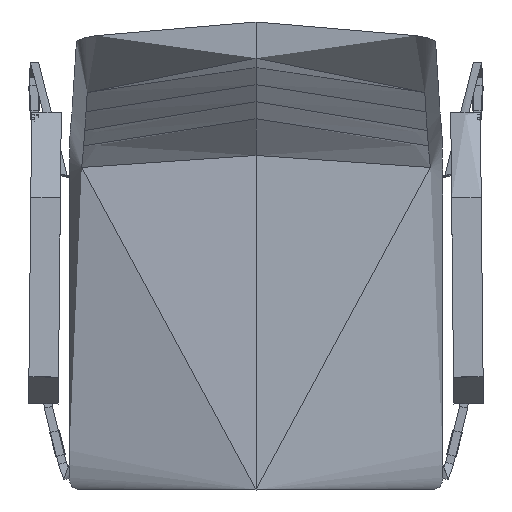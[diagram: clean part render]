
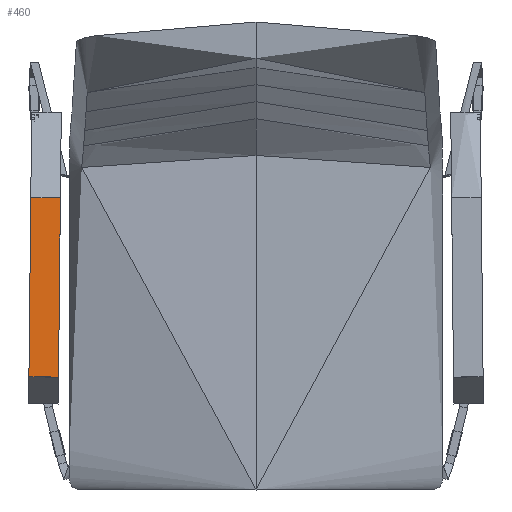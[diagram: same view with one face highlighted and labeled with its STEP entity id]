
A CAD part, top view. The second image highlights one B-rep face of the part: STEP entity #460.
In plain terms, the highlighted free-form (B-spline) face has degree [3, 3] with [5, 4] control points.
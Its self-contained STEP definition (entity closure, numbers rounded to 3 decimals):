
#38=(
BOUNDED_CURVE()
B_SPLINE_CURVE(3,(#8143,#8144,#8145,#8146),.UNSPECIFIED.,.F.,.F.)
B_SPLINE_CURVE_WITH_KNOTS((4,4),(0.,217.847),.UNSPECIFIED.)
CURVE()
GEOMETRIC_REPRESENTATION_ITEM()
RATIONAL_B_SPLINE_CURVE((1.,1.,1.,1.))
REPRESENTATION_ITEM('')
);
#39=(
BOUNDED_CURVE()
B_SPLINE_CURVE(3,(#8147,#8148,#8149,#8150,#8151),.UNSPECIFIED.,.F.,.F.)
B_SPLINE_CURVE_WITH_KNOTS((4,1,4),(-36.993,-18.496,
0.),.UNSPECIFIED.)
CURVE()
GEOMETRIC_REPRESENTATION_ITEM()
RATIONAL_B_SPLINE_CURVE((1.,1.,1.,1.,1.))
REPRESENTATION_ITEM('')
);
#40=(
BOUNDED_CURVE()
B_SPLINE_CURVE(3,(#8152,#8153,#8154,#8155),.UNSPECIFIED.,.F.,.F.)
B_SPLINE_CURVE_WITH_KNOTS((4,4),(-217.847,0.),.UNSPECIFIED.)
CURVE()
GEOMETRIC_REPRESENTATION_ITEM()
RATIONAL_B_SPLINE_CURVE((1.,1.,1.,1.))
REPRESENTATION_ITEM('')
);
#41=(
BOUNDED_CURVE()
B_SPLINE_CURVE(3,(#8156,#8157,#8158,#8159,#8160),.UNSPECIFIED.,.F.,.F.)
B_SPLINE_CURVE_WITH_KNOTS((4,1,4),(0.,18.496,36.993),
 .UNSPECIFIED.)
CURVE()
GEOMETRIC_REPRESENTATION_ITEM()
RATIONAL_B_SPLINE_CURVE((1.,1.,1.,1.,1.))
REPRESENTATION_ITEM('')
);
#255=(
BOUNDED_SURFACE()
B_SPLINE_SURFACE(3,3,((#7628,#7629,#7630,#7631),(#7632,#7633,#7634,#7635),
(#7636,#7637,#7638,#7639),(#7640,#7641,#7642,#7643),(#7644,#7645,#7646,
#7647)),.UNSPECIFIED.,.F.,.F.,.F.)
B_SPLINE_SURFACE_WITH_KNOTS((4,1,4),(4,4),(-36.993,-18.496,
0.),(0.,217.847),.UNSPECIFIED.)
GEOMETRIC_REPRESENTATION_ITEM()
RATIONAL_B_SPLINE_SURFACE(((1.,1.,1.,1.),(1.,1.,1.,1.),(1.,1.,1.,1.),(1.,
1.,1.,1.),(1.,1.,1.,1.)))
REPRESENTATION_ITEM('')
SURFACE()
);
#460=ADVANCED_FACE('',(#640),#255,.T.);
#640=FACE_OUTER_BOUND('',#824,.T.);
#824=EDGE_LOOP('',(#1115,#1116,#1117,#1118));
#1115=ORIENTED_EDGE('',*,*,#1841,.F.);
#1116=ORIENTED_EDGE('',*,*,#1840,.F.);
#1117=ORIENTED_EDGE('',*,*,#1839,.F.);
#1118=ORIENTED_EDGE('',*,*,#1838,.F.);
#1838=EDGE_CURVE('',#2413,#2414,#38,.T.);
#1839=EDGE_CURVE('',#2414,#2415,#39,.T.);
#1840=EDGE_CURVE('',#2415,#2416,#40,.T.);
#1841=EDGE_CURVE('',#2416,#2413,#41,.T.);
#2413=VERTEX_POINT('',#8002);
#2414=VERTEX_POINT('',#8003);
#2415=VERTEX_POINT('',#8004);
#2416=VERTEX_POINT('',#8005);
#7628=CARTESIAN_POINT('',(-237.986,103.392,656.906));
#7629=CARTESIAN_POINT('',(-238.746,30.851,660.113));
#7630=CARTESIAN_POINT('',(-239.509,-41.973,663.333));
#7631=CARTESIAN_POINT('',(-240.269,-114.514,666.539));
#7632=CARTESIAN_POINT('',(-244.421,103.486,659.362));
#7633=CARTESIAN_POINT('',(-245.181,30.945,662.569));
#7634=CARTESIAN_POINT('',(-246.042,-41.709,665.724));
#7635=CARTESIAN_POINT('',(-246.802,-114.25,668.931));
#7636=CARTESIAN_POINT('',(-255.46,103.633,662.22));
#7637=CARTESIAN_POINT('',(-256.22,31.092,665.427));
#7638=CARTESIAN_POINT('',(-256.817,-41.358,668.616));
#7639=CARTESIAN_POINT('',(-257.577,-113.899,671.823));
#7640=CARTESIAN_POINT('',(-268.599,103.745,659.822));
#7641=CARTESIAN_POINT('',(-269.359,31.204,663.029));
#7642=CARTESIAN_POINT('',(-270.346,-41.404,666.323));
#7643=CARTESIAN_POINT('',(-271.106,-113.945,669.53));
#7644=CARTESIAN_POINT('',(-273.984,103.769,656.902));
#7645=CARTESIAN_POINT('',(-274.744,31.228,660.108));
#7646=CARTESIAN_POINT('',(-275.507,-41.596,663.328));
#7647=CARTESIAN_POINT('',(-276.267,-114.137,666.535));
#8002=CARTESIAN_POINT('',(-237.986,103.392,656.906));
#8003=CARTESIAN_POINT('',(-240.269,-114.514,666.539));
#8004=CARTESIAN_POINT('',(-276.267,-114.137,666.535));
#8005=CARTESIAN_POINT('',(-273.984,103.769,656.902));
#8143=CARTESIAN_POINT('',(-237.986,103.392,656.906));
#8144=CARTESIAN_POINT('',(-238.746,30.851,660.113));
#8145=CARTESIAN_POINT('',(-239.509,-41.973,663.333));
#8146=CARTESIAN_POINT('',(-240.269,-114.514,666.539));
#8147=CARTESIAN_POINT('',(-240.269,-114.514,666.539));
#8148=CARTESIAN_POINT('',(-246.802,-114.25,668.931));
#8149=CARTESIAN_POINT('',(-257.577,-113.899,671.823));
#8150=CARTESIAN_POINT('',(-271.106,-113.945,669.53));
#8151=CARTESIAN_POINT('',(-276.267,-114.137,666.535));
#8152=CARTESIAN_POINT('',(-276.267,-114.137,666.535));
#8153=CARTESIAN_POINT('',(-275.507,-41.596,663.328));
#8154=CARTESIAN_POINT('',(-274.744,31.228,660.108));
#8155=CARTESIAN_POINT('',(-273.984,103.769,656.902));
#8156=CARTESIAN_POINT('',(-273.984,103.769,656.902));
#8157=CARTESIAN_POINT('',(-268.599,103.745,659.822));
#8158=CARTESIAN_POINT('',(-255.46,103.633,662.22));
#8159=CARTESIAN_POINT('',(-244.421,103.486,659.362));
#8160=CARTESIAN_POINT('',(-237.986,103.392,656.906));
